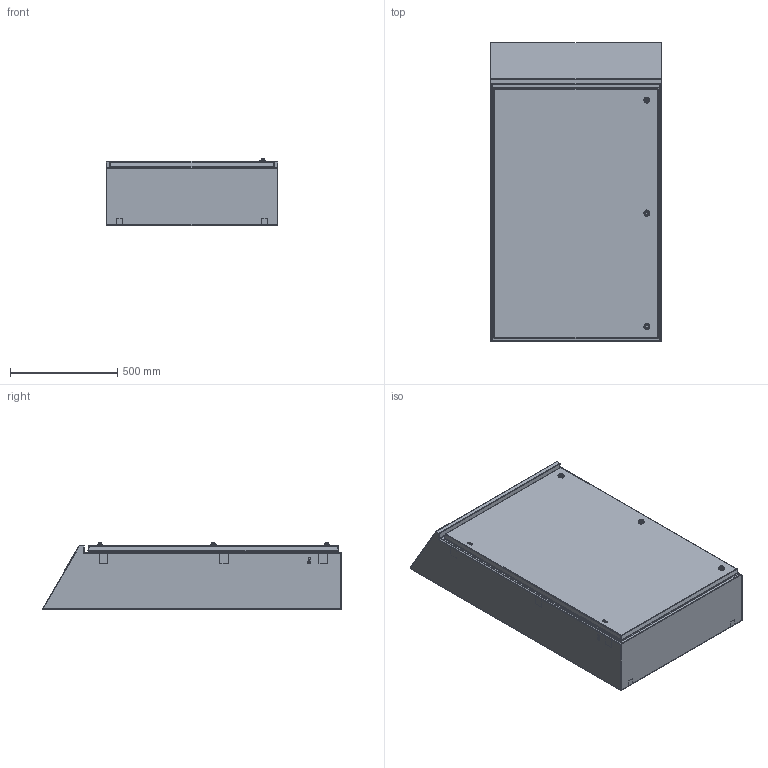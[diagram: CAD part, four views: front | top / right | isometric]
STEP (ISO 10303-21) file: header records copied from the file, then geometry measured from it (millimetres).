
FILE_DESCRIPTION (( 'STEP AP203' ), '1' );
FILE_NAME ('SITO-QSH812.STEP', '2021-05-06T08:15:59', ( '' ), ( '' ), 'SwSTEP 2.0', 'SolidWorks 2020', '' );
FILE_SCHEMA (( 'CONFIG_CONTROL_DESIGN' ));
Length unit declared in the file: millimetre
Products named in the file (20): SITO-FASCIAME QSH812_QSH45; CEPOM(CORPO); DM06I; SITO-QSH812; SVPIQSH812A; SG460-SD senza scarpetta_Configurazione 1; SG460-32-HD_Posizione 4; PIQSH812A; SITO-ASSIEME PORTA QSH812; SITO-PORTA QSH812; SG460-32-HD_Posizione 3; DMFD08Z; 1000-S1491; PRM615TL316; CERNIERA; GHIERA SG CASSETTE; ADMT_ADMT; Scarpetta H.32 SG460-SD_Configurazione 2; RP0612I
Assembly tree (39 placements, depth 4):
  SITO-QSH812
    SITO-FASCIAME QSH812_QSH45
    PIQSH812A
      SVPIQSH812A
    SITO-ASSIEME PORTA QSH812
      SITO-PORTA QSH812
      SG460-32-HD_Posizione 4
        1000-S1491
        GHIERA SG CASSETTE
        Scarpetta H.32 SG460-SD_Configurazione 2
        CEPOM(CORPO)
        SG460-SD senza scarpetta_Configurazione 1
      SG460-32-HD_Posizione 3
        1000-S1491
        GHIERA SG CASSETTE
        Scarpetta H.32 SG460-SD_Configurazione 2
        CEPOM(CORPO)
      PRM615TL316  x2
      ADMT_ADMT  x2
      RP0612I  x2
      DM06I  x2
      SG460-32-HD_Posizione 4
        1000-S1491
        GHIERA SG CASSETTE
        Scarpetta H.32 SG460-SD_Configurazione 2
        CEPOM(CORPO)
        SG460-SD senza scarpetta_Configurazione 1
    DMFD08Z  x4
    ADMT_ADMT  x2
    CERNIERA  x3
Bounding box: 800 x 1394.81 x 313.12 mm (x, y, z)
Volume: 8076339.5 mm3; surface area: 9198723.3 mm2
Topology: 47 solids, 47 shells, 2196 faces, 5427 edges, 3377 vertices
Faces by surface type: plane 1122, cylinder 710, bspline 164, cone 154, sphere 28, torus 18
Entity records: 38277 total; most frequent: CARTESIAN_POINT 9656, DIRECTION 5476, ORIENTED_EDGE 5410, EDGE_CURVE 2705, AXIS2_PLACEMENT_3D 1934, VERTEX_POINT 1683, LINE 1608, VECTOR 1608
